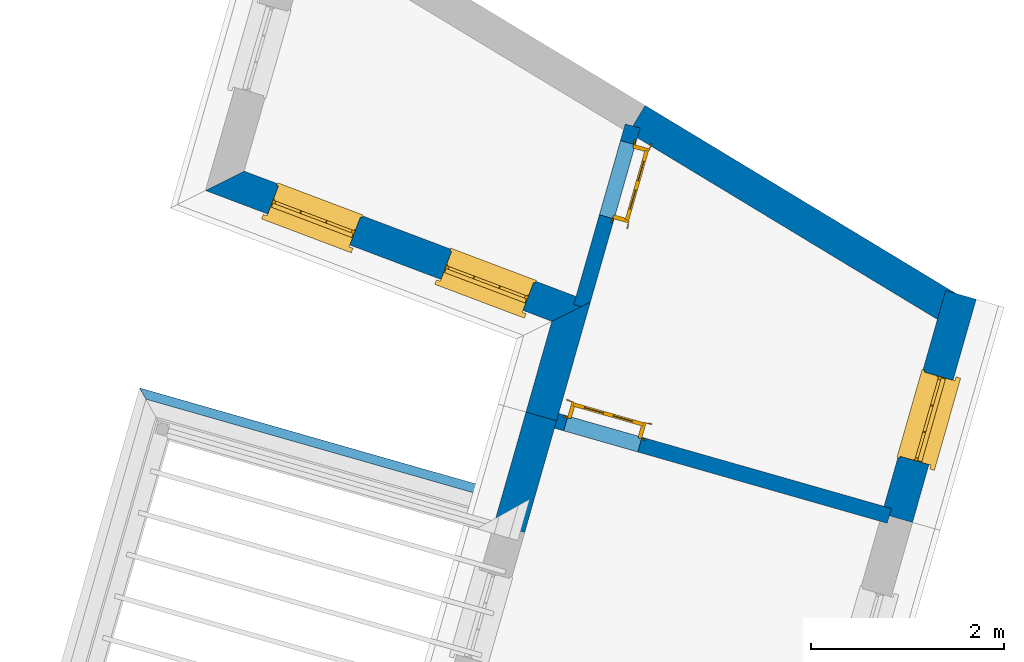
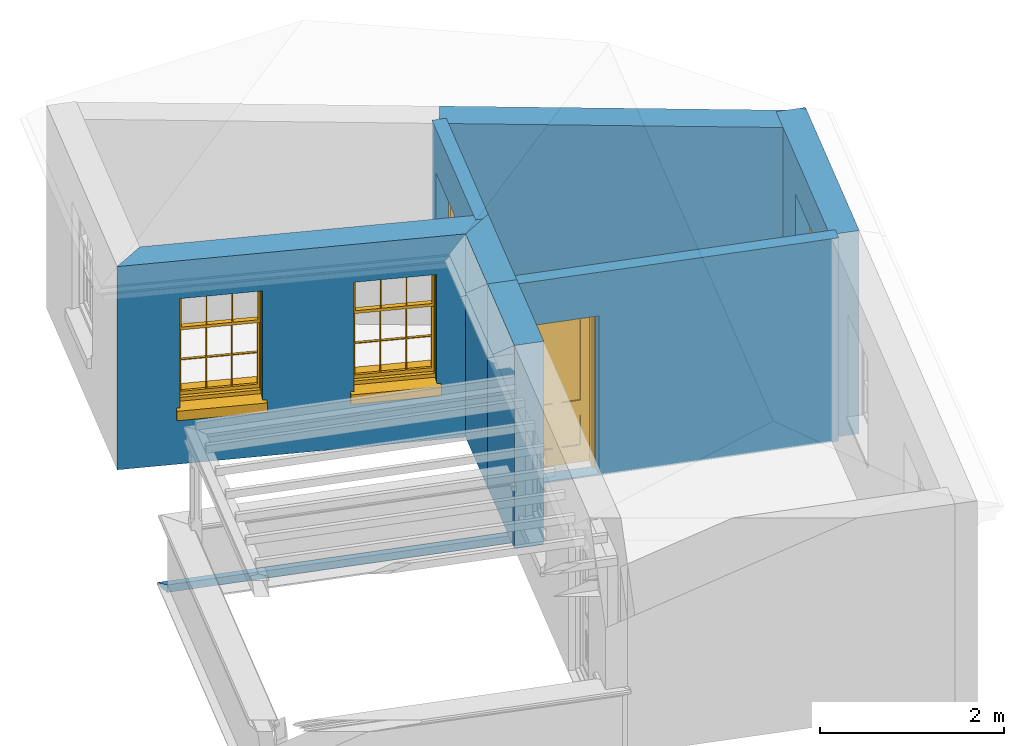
# One storey, part 3 of 5: 8 walls, 3 windows, 2 doors, 5 openings.
"""IFC4 building model written with IfcOpenShell, lengths in metres."""

import ifcopenshell
import ifcopenshell.guid

model = None  # the IFC model being written
_history = None  # IfcOwnerHistory: only IFC2X3 demands one
_inside = {}  # id of a spatial element -> (the spatial element, [elements in it])
_under = {}  # id of a project, library or spatial element -> (it, [spatial elements below it])
_declared = {}  # id of a project -> (the project, [libraries it declares])
_typed = {}  # id of a type object -> (the type object, [elements of that type])
_made_of = {}  # id of a material, layer set ... -> (it, [elements and type objects made of it])


def new_model(schema):
    """Start an empty IFC model of exactly this schema.

    Asked for "IFC4X3", IfcOpenShell would pick the latest addendum, in which some entities
    have other attributes; the version numbers below select the first issue.
    IFC2X3 requires an IfcOwnerHistory on every rooted entity: one is made here for all.
    """
    global model, _history
    if schema == "IFC4X3":
        model = ifcopenshell.file(schema_version=(4, 3, 0, 0))
    else:
        model = ifcopenshell.file(schema=schema)
    _inside.clear()
    _under.clear()
    _declared.clear()
    _typed.clear()
    _made_of.clear()
    _history = None
    if model.schema == "IFC2X3":
        org = make("IfcOrganization", Name="unknown")
        user = make(
            "IfcPersonAndOrganization",
            ThePerson=make("IfcPerson", FamilyName="unknown"),
            TheOrganization=org,
        )
        app = make(
            "IfcApplication",
            ApplicationDeveloper=org,
            Version="unknown",
            ApplicationFullName="unknown",
            ApplicationIdentifier="unknown",
        )
        _history = make(
            "IfcOwnerHistory",
            OwningUser=user,
            OwningApplication=app,
            ChangeAction="ADDED",
            CreationDate=0,
        )
    return model


def make(cls, **values):
    """One entity of the class cls with the attributes given. An attribute that is None is left unset."""
    return model.create_entity(
        cls, **{name: value for name, value in values.items() if value is not None}
    )


def rooted(cls, **values):
    """An entity with a GlobalId (a new one), such as an element, a storey or a relation."""
    return make(cls, GlobalId=ifcopenshell.guid.new(), OwnerHistory=_history, **values)


def si_unit(unit_type, name, prefix=None):
    """IfcSIUnit, for example si_unit("LENGTHUNIT", "METRE", prefix="MILLI")."""
    return make("IfcSIUnit", UnitType=unit_type, Prefix=prefix, Name=name)


def assignment(units):
    """IfcUnitAssignment: the units of a project."""
    return None if units is None else make("IfcUnitAssignment", Units=units)


def point(xyz):
    """IfcCartesianPoint."""
    return None if xyz is None else make("IfcCartesianPoint", Coordinates=xyz)


def direction(xyz):
    """IfcDirection."""
    return None if xyz is None else make("IfcDirection", DirectionRatios=xyz)


def frame(location, z_axis=None, x_axis=None):
    """IfcAxis2Placement3D, a coordinate frame: its origin and axes. An axis left out is left unset."""
    return make(
        "IfcAxis2Placement3D",
        Location=point(location),
        Axis=direction(z_axis),
        RefDirection=direction(x_axis),
    )


def origin():
    """The frame at (0, 0, 0) with its axes left unset."""
    return frame((0.0, 0.0, 0.0))


def origin_with_axes():
    """The frame at (0, 0, 0) with the z axis (0, 0, 1) and the x axis (1, 0, 0) written out."""
    return frame((0.0, 0.0, 0.0), z_axis=(0.0, 0.0, 1.0), x_axis=(1.0, 0.0, 0.0))


def place(relative_to, where):
    """IfcLocalPlacement: puts the frame where relative to a parent placement (None: the world)."""
    return make(
        "IfcLocalPlacement", PlacementRelTo=relative_to, RelativePlacement=where
    )


def context(
    kind, dimensions, precision=None, world=None, true_north=None, identifier=None
):
    """IfcGeometricRepresentationContext, for example the 3D "Model" context."""
    return make(
        "IfcGeometricRepresentationContext",
        ContextIdentifier=identifier,
        ContextType=kind,
        CoordinateSpaceDimension=dimensions,
        Precision=precision,
        WorldCoordinateSystem=world,
        TrueNorth=true_north,
    )


def subcontext(parent, identifier, kind, view, scale=None):
    """IfcGeometricRepresentationSubContext, for example "Body" below "Model"."""
    return make(
        "IfcGeometricRepresentationSubContext",
        ContextIdentifier=identifier,
        ContextType=kind,
        ParentContext=parent,
        TargetScale=scale,
        TargetView=view,
    )


def project(units=None, contexts=None):
    """IfcProject with its units and contexts."""
    return rooted(
        "IfcProject",
        Name="project",
        RepresentationContexts=contexts,
        UnitsInContext=assignment(units),
    )


def spatial(cls, under=None, at=None, **own):
    """A site, building, storey or space (cls), placed at a placement, below another one or the project."""
    s = rooted(cls, ObjectPlacement=at, **own)
    if under is not None:
        _under.setdefault(under.id(), (under, []))[1].append(s)
    return s


def polyline(points):
    """IfcPolyline through the points."""
    return make("IfcPolyline", Points=[point(p) for p in points])


def outline(outer, holes=None, kind="AREA"):
    """IfcArbitraryClosedProfileDef: a profile drawn as a closed curve; with holes, ...WithVoids."""
    if holes is None:
        return make("IfcArbitraryClosedProfileDef", ProfileType=kind, OuterCurve=outer)
    return make(
        "IfcArbitraryProfileDefWithVoids",
        ProfileType=kind,
        OuterCurve=outer,
        InnerCurves=holes,
    )


def extrude(swept, where, along, depth):
    """IfcExtrudedAreaSolid: the profile swept, set in the frame where, extruded along a direction by depth."""
    return make(
        "IfcExtrudedAreaSolid",
        SweptArea=swept,
        Position=where,
        ExtrudedDirection=direction(along),
        Depth=depth,
    )


def clip(a, b, op="DIFFERENCE"):
    """IfcBooleanClippingResult: the solid a cut by the half space b."""
    return make(
        "IfcBooleanClippingResult", Operator=op, FirstOperand=a, SecondOperand=b
    )


def halfspace(plane, agree):
    """IfcHalfSpaceSolid: all space on one side of the plane z = 0 of the frame plane."""
    return make(
        "IfcHalfSpaceSolid",
        BaseSurface=make("IfcPlane", Position=plane),
        AgreementFlag=agree,
    )


def faces_of(points, faces, orient=None, outer=None):
    """IfcFace entities. A face is a list of loops; a loop is a list of indices into points, from 0.

    orient and outer hold one flag for each loop. By default every Orientation is true, the
    first loop of a face is its IfcFaceOuterBound and the others are IfcFaceBound.
    """
    made = []
    for i, loops in enumerate(faces):
        bounds = []
        for j, loop in enumerate(loops):
            is_outer = j == 0 if outer is None else outer[i][j]
            bounds.append(
                make(
                    "IfcFaceOuterBound" if is_outer else "IfcFaceBound",
                    Bound=make("IfcPolyLoop", Polygon=[points[k] for k in loop]),
                    Orientation=True if orient is None else orient[i][j],
                )
            )
        made.append(make("IfcFace", Bounds=bounds))
    return made


def faceted_brep(points, faces, orient=None, outer=None, voids=None):
    """IfcFacetedBrep: a solid bounded by flat faces; with voids (closed shells), ...WithVoids."""
    shared = [point(p) for p in points]
    hull = make("IfcClosedShell", CfsFaces=faces_of(shared, faces, orient, outer))
    if voids is None:
        return make("IfcFacetedBrep", Outer=hull)
    return make(
        "IfcFacetedBrepWithVoids",
        Outer=hull,
        Voids=[
            make(cls, CfsFaces=faces_of(shared, fs, o, b)) for cls, fs, o, b in voids
        ],
    )


def shape(context_of_items, identifier, shape_type, items):
    """IfcShapeRepresentation: the items that make up one representation, for example the "Body"."""
    return make(
        "IfcShapeRepresentation",
        ContextOfItems=context_of_items,
        RepresentationIdentifier=identifier,
        RepresentationType=shape_type,
        Items=items,
    )


def source(mapping_origin, context_of_items, identifier, shape_type, items):
    """IfcRepresentationMap: a shape defined once, which mapped items show again and again."""
    return make(
        "IfcRepresentationMap",
        MappingOrigin=mapping_origin,
        MappedRepresentation=shape(context_of_items, identifier, shape_type, items),
    )


def transform(
    local_origin,
    x_axis=None,
    y_axis=None,
    z_axis=None,
    scale=None,
    scale2=None,
    scale3=None,
    uniform=True,
):
    """IfcCartesianTransformationOperator3D, or its non-uniform kind. x_axis, y_axis, z_axis: its Axis1, 2, 3."""
    if uniform:
        return make(
            "IfcCartesianTransformationOperator3D",
            Axis1=direction(x_axis),
            Axis2=direction(y_axis),
            LocalOrigin=point(local_origin),
            Scale=scale,
            Axis3=direction(z_axis),
        )
    return make(
        "IfcCartesianTransformationOperator3DnonUniform",
        Axis1=direction(x_axis),
        Axis2=direction(y_axis),
        LocalOrigin=point(local_origin),
        Scale=scale,
        Axis3=direction(z_axis),
        Scale2=scale2,
        Scale3=scale3,
    )


def mapped(mapping_source, mapping_target):
    """IfcMappedItem: shows the shape of a source again, moved by a transform."""
    return make(
        "IfcMappedItem", MappingSource=mapping_source, MappingTarget=mapping_target
    )


def material(Name=None, Category=None):
    """IfcMaterial."""
    return make("IfcMaterial", Name=Name, Category=Category)


def layer(
    of_material, thickness, ventilated=None, Name=None, Category=None, Priority=None
):
    """IfcMaterialLayer: one layer of a wall or slab, of a material (None: an air gap)."""
    return make(
        "IfcMaterialLayer",
        Material=of_material,
        LayerThickness=thickness,
        IsVentilated=ventilated,
        Name=Name,
        Category=Category,
        Priority=Priority,
    )


def layer_set(layers, Name=None):
    """IfcMaterialLayerSet."""
    return make("IfcMaterialLayerSet", MaterialLayers=layers, LayerSetName=Name)


def layer_usage(for_layer_set, set_direction, sense, offset, extent=None):
    """IfcMaterialLayerSetUsage: how a layer set lies in its element."""
    return make(
        "IfcMaterialLayerSetUsage",
        ForLayerSet=for_layer_set,
        LayerSetDirection=set_direction,
        DirectionSense=sense,
        OffsetFromReferenceLine=offset,
        ReferenceExtent=extent,
    )


def material_profile(
    of_material, cross_section, Name=None, Category=None, Priority=None
):
    """IfcMaterialProfile: a cross section and its material."""
    return make(
        "IfcMaterialProfile",
        Name=Name,
        Material=of_material,
        Profile=cross_section,
        Priority=Priority,
        Category=Category,
    )


def profile_set(profiles, Name=None, composite=None):
    """IfcMaterialProfileSet."""
    return make(
        "IfcMaterialProfileSet",
        Name=Name,
        MaterialProfiles=profiles,
        CompositeProfile=composite,
    )


def profile_usage(for_profile_set, cardinal=None, extent=None):
    """IfcMaterialProfileSetUsage: how a profile set lies along its element."""
    return make(
        "IfcMaterialProfileSetUsage",
        ForProfileSet=for_profile_set,
        CardinalPoint=cardinal,
        ReferenceExtent=extent,
    )


def made_of(thing, what):
    """Note that an element or type object is made of a material, layer set ...; save() writes the relation."""
    if what is not None:
        _made_of.setdefault(what.id(), (what, []))[1].append(thing)
    return thing


def type_object(cls, material=None, **own):
    """A type object (cls), such as IfcWallType, which elements share."""
    return made_of(rooted(cls, **own), material)


def type_shapes(of_type, sources):
    """Give a type object the sources (RepresentationMaps) that its elements show as mapped items."""
    of_type.RepresentationMaps = sources


def element(
    cls,
    number,
    at=None,
    inside=None,
    cuts=None,
    type_object=None,
    material=None,
    context=None,
    identifier="Body",
    shape_type=None,
    held_by="IfcProductDefinitionShape",
    body=None,
    shapes=None,
    **own,
):
    """One element of the class cls, such as IfcWall. Its Tag is "e" and its number.

    at: its placement. inside: the storey or other place that contains it. cuts: it is an
    opening in that element (IfcRelVoidsElement). A single representation is given by context,
    identifier, shape_type and body (its items); several are given by shapes. held_by: the class
    of the entity that holds the representations. save() writes the other relations.
    """
    e = rooted(cls, Tag="e%d" % number, ObjectPlacement=at, **own)
    if body is not None:
        shapes = [shape(context, identifier, shape_type, body)]
    if shapes is not None:
        e.Representation = make(held_by, Representations=shapes)
    if inside is not None:
        _inside.setdefault(inside.id(), (inside, []))[1].append(e)
    if cuts is not None:
        rooted(
            "IfcRelVoidsElement", RelatingBuildingElement=cuts, RelatedOpeningElement=e
        )
    if type_object is not None:
        _typed.setdefault(type_object.id(), (type_object, []))[1].append(e)
    return made_of(e, material)


def fill(opening, filler):
    """IfcRelFillsElement: the door or window that sits in an opening."""
    return rooted(
        "IfcRelFillsElement",
        RelatingOpeningElement=opening,
        RelatedBuildingElement=filler,
    )


def aggregate(whole, parts):
    """IfcRelAggregates: a whole, such as a stair, and the parts it consists of."""
    return rooted("IfcRelAggregates", RelatingObject=whole, RelatedObjects=parts)


def save(model, path):
    """Write the relations noted so far, then the file.

    IfcRelAggregates (storeys below a building ...), IfcRelContainedInSpatialStructure (elements
    in a storey), IfcRelDefinesByType, IfcRelAssociatesMaterial and IfcRelDeclares: one each for
    every whole, place, type object, material and project.
    """
    for whole, parts in _under.values():
        aggregate(whole, parts)
    for where, things in _inside.values():
        rooted(
            "IfcRelContainedInSpatialStructure",
            RelatedElements=things,
            RelatingStructure=where,
        )
    for kind, things in _typed.values():
        rooted("IfcRelDefinesByType", RelatedObjects=things, RelatingType=kind)
    for what, things in _made_of.values():
        rooted("IfcRelAssociatesMaterial", RelatedObjects=things, RelatingMaterial=what)
    for by, libraries in _declared.values():
        rooted("IfcRelDeclares", RelatingContext=by, RelatedDefinitions=libraries)
    model.write(path)


model = new_model("IFC4")

# Units and contexts
model_context = context("Model", 3, world=origin_with_axes())
body_context = subcontext(model_context, "Body", "Model", "MODEL_VIEW")
ifc_project = project(units=[si_unit("PLANEANGLEUNIT", "RADIAN"), si_unit("MASSUNIT", "GRAM", prefix="KILO"), si_unit("FORCEUNIT", "NEWTON", prefix="KILO"), si_unit("LENGTHUNIT", "METRE"), si_unit("AREAUNIT", "SQUARE_METRE"), si_unit("VOLUMEUNIT", "CUBIC_METRE")], contexts=[model_context, model_context])

# Sites, building, storey
site_1_placement = place(None, origin_with_axes())
site_1 = spatial("IfcSite", under=ifc_project, at=site_1_placement, Name="Tamar")
site_2_placement = place(site_1_placement, origin_with_axes())
site_2 = spatial("IfcSite", under=site_1, at=site_2_placement, Name="Site plot-19", CompositionType="ELEMENT")
building_placement = place(None, origin_with_axes())
building = spatial("IfcBuilding", under=site_2, at=building_placement, Name="Building plot-19", CompositionType="ELEMENT")
storey_placement = place(None, frame((0.0, 0.0, 30.4), z_axis=(0.0, 0.0, 1.0), x_axis=(1.0, 0.0, 0.0)))
storey = spatial("IfcBuildingStorey", under=building, at=storey_placement, Name="plot-19 1", CompositionType="ELEMENT", Elevation=30.4)

# Wall, openings, windows
ifc_material_1 = material(Name="Masonry")
ifc_layer_1 = layer(ifc_material_1, 0.33, ventilated=False)
ifc_layer_set_1 = layer_set([ifc_layer_1], Name="exterior_0.08_0.25")
ifc_layer_usage_1 = layer_usage(ifc_layer_set_1, "AXIS2", "POSITIVE", -0.25)
wall_type_1 = type_object("IfcWallType", Name="exterior_0.08_0.25", PredefinedType="SOLIDWALL", material=ifc_layer_set_1)
wall_1_placement = place(storey_placement, frame((277.125139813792, 301.7223765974, 0.0), z_axis=(0.0, 0.0, 1.0), x_axis=(0.935518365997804, -0.353278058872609, 0.0)))
wall_1 = element("IfcWall", 1, at=wall_1_placement, inside=storey, type_object=wall_type_1, material=ifc_layer_usage_1, Name="exterior", context=body_context, shape_type="SweptSolid", body=[
    extrude(outline(polyline([(0.0736260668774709, 0.0800000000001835), (-0.230081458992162, -0.249999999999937), (3.61187362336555, -0.249999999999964), (3.91558114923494, 0.0800000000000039), (0.0736260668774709, 0.0800000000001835)])), origin_with_axes(), (0.0, 0.0, 1.0), 2.7),
])
opening_1_placement = place(wall_1_placement, frame((0.460977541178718, 0.0, 0.75)))
opening_1 = element("IfcOpeningElement", 2, at=opening_1_placement, cuts=wall_1, Name="My Opening", ObjectType="Opening", context=body_context, shape_type="SweptSolid", body=[
    extrude(outline(polyline([(0.0, -0.269999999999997), (0.91000000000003, -0.269999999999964), (0.910000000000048, 1.09999999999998), (1.83186799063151e-14, 1.09999999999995), (0.0, -0.269999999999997)])), origin_with_axes(), (0.0, 0.0, 1.0), 1.445),
])
opening_2_placement = place(wall_1_placement, frame((2.38195508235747, 0.0, 0.75)))
opening_2 = element("IfcOpeningElement", 3, at=opening_2_placement, cuts=wall_1, Name="My Opening", ObjectType="Opening", context=body_context, shape_type="SweptSolid", body=[
    extrude(outline(polyline([(0.0, -0.26999999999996), (0.909999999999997, -0.270000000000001), (0.910000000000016, 1.09999999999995), (1.86517468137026e-14, 1.09999999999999), (0.0, -0.26999999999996)])), origin_with_axes(), (0.0, 0.0, 1.0), 1.445),
])
window_type = type_object("IfcWindowType", Name="sash_shorter", PartitioningType="DOUBLE_PANEL_HORIZONTAL", PredefinedType="NOTDEFINED")
shared_shape_1 = source(origin(), body_context, "Body", "Brep", [
    faceted_brep([(0.876875, 0.145, 0.999097), (0.876875, 0.145, 1.411875), (0.9, 0.145, 1.435), (0.033125, 0.145, 1.411875), (0.033125, 0.145, 0.999097), (0.01, 0.145, 1.435), (0.033125, 0.115, 1.411875), (0.01, 0.115, 1.435), (0.033125, 0.115, 0.999097), (0.876875, 0.115, 1.411875), (0.876875, 0.115, 0.999097), (0.9, 0.115, 1.435), (0.033125, 0.145, 0.960972), (0.01, 0.145, 0.960972), (0.033125, 0.145, 0.548195), (0.876875, 0.145, 0.960972), (0.876875, 0.145, 0.548195), (0.9, 0.145, 0.960972), (0.876875, 0.145, 0.538195), (0.876875, 0.145, 0.125417), (0.9, 0.145, 0.077167), (0.033125, 0.145, 0.125417), (0.033125, 0.145, 0.538195), (0.01, 0.145, 0.077167), (0.9, 0.115, 0.960972), (0.01, 0.115, 0.960972), (-0.0425, 0.0, 0.01), (-0.0425, -0.05, 0.001667), (0.0, 0.0, 0.01), (0.9525, 0.0, 0.01), (0.91, 0.0, 0.01), (0.9525, -0.05, 0.001667), (-0.02, 0.33, 0.077167), (0.0, 0.33, 0.077167), (-0.02, 0.36, 0.077167), (0.0, 0.19, 0.077167), (0.01, 0.19, 0.077167), (0.91, 0.19, 0.077167), (0.91, 0.33, 0.077167), (0.9, 0.19, 0.077167), (0.93, 0.33, 0.077167), (0.93, 0.36, 0.077167), (0.01, 0.145, 0.999097), (0.01, 0.175, 0.999097), (0.9, 0.145, 0.999097), (0.9, 0.175, 0.999097), (0.876875, 0.175, 0.125417), (0.876875, 0.175, 0.538195), (0.9, 0.175, 0.077167), (0.876875, 0.175, 0.548195), (0.876875, 0.175, 0.960972), (0.033125, 0.175, 0.125417), (0.01, 0.175, 0.077167), (0.033125, 0.175, 0.538195), (0.033125, 0.175, 0.960972), (0.033125, 0.175, 0.548195), (-0.02, 0.33, 0.052167), (-0.02, 0.36, 0.052167), (0.93, 0.36, 0.052167), (0.93, 0.33, 0.052167), (0.91, 0.33, 0.052167), (0.0, 0.33, 0.052167), (0.91, 0.1, 0.026667), (0.0, 0.1, 0.026667), (-0.0425, -0.05, -0.123333), (0.9525, -0.05, -0.123333), (-0.0425, 0.0, -0.123333), (0.9525, 0.0, -0.123333), (0.01, 0.19, 1.435), (0.9, 0.19, 1.435), (0.0, 0.19, 1.445), (0.91, 0.19, 1.445), (0.01, 0.1, 0.077167), (0.9, 0.1, 0.077167), (0.592292, 0.145, 0.125417), (0.592292, 0.175, 0.125417), (0.317708, 0.175, 0.125417), (0.317708, 0.145, 0.125417), (0.592292, 0.145, 0.548195), (0.317708, 0.145, 0.548195), (0.317708, 0.145, 0.538195), (0.592292, 0.145, 0.538195), (0.592292, 0.175, 0.548195), (0.317708, 0.175, 0.548195), (0.602292, 0.175, 0.548195), (0.602292, 0.145, 0.548195), (0.317708, 0.175, 0.538195), (0.307708, 0.175, 0.125417), (0.307708, 0.175, 0.538195), (0.602292, 0.175, 0.538195), (0.602292, 0.175, 0.125417), (0.592292, 0.175, 0.538195), (0.307708, 0.175, 0.548195), (0.317708, 0.175, 0.960972), (0.307708, 0.175, 0.960972), (0.602292, 0.175, 0.960972), (0.592292, 0.175, 0.960972), (0.307708, 0.145, 0.538195), (0.307708, 0.145, 0.125417), (0.307708, 0.145, 0.548195), (0.307708, 0.145, 0.960972), (0.592292, 0.145, 0.960972), (0.317708, 0.145, 0.960972), (0.602292, 0.145, 0.960972), (0.602292, 0.145, 0.538195), (0.602292, 0.145, 0.125417), (0.317708, 0.115, 1.411875), (0.307708, 0.115, 1.411875), (0.307708, 0.115, 0.999097), (0.317708, 0.115, 0.999097), (0.602292, 0.115, 1.411875), (0.592292, 0.115, 1.411875), (0.592292, 0.115, 0.999097), (0.602292, 0.115, 0.999097), (0.317708, 0.145, 0.999097), (0.307708, 0.145, 0.999097), (0.307708, 0.145, 1.411875), (0.317708, 0.145, 1.411875), (0.602292, 0.145, 0.999097), (0.592292, 0.145, 0.999097), (0.592292, 0.145, 1.411875), (0.602292, 0.145, 1.411875), (0.91, 0.1, 1.445), (0.9, 0.1, 1.435), (0.01, 0.1, 1.435), (0.0, 0.1, 1.445), (0.91, 0.0, 0.0), (0.0, 0.0, 0.0), (0.91, 0.33, 0.0), (0.0, 0.33, 0.0)], [[[0, 1, 2]], [[3, 4, 5]], [[6, 7, 8]], [[9, 10, 11]], [[12, 13, 14]], [[15, 16, 17]], [[18, 19, 20]], [[21, 22, 23]], [[24, 15, 17]], [[13, 12, 25]], [[26, 27, 28]], [[29, 30, 31]], [[32, 33, 34]], [[35, 36, 33]], [[37, 38, 39]], [[40, 41, 38]], [[42, 4, 43]], [[44, 45, 0]], [[46, 47, 48]], [[49, 50, 45]], [[51, 52, 53]], [[54, 55, 43]], [[38, 33, 36, 39]], [[41, 34, 33, 38]], [[56, 32, 34, 57]], [[57, 34, 41, 58]], [[58, 41, 40, 59]], [[57, 58, 60, 61]], [[52, 48, 39, 36]], [[62, 63, 28, 30]], [[27, 31, 30, 28]], [[27, 64, 65, 31]], [[66, 67, 65, 64]], [[2, 5, 68, 69]], [[68, 70, 71, 69]], [[20, 23, 72, 73]], [[73, 72, 63, 62]], [[74, 75, 76, 77]], [[78, 79, 80, 81]], [[78, 82, 83, 79]], [[16, 49, 84, 85]], [[86, 76, 87, 88]], [[89, 90, 75, 91]], [[92, 88, 53, 55]], [[82, 91, 86, 83]], [[93, 83, 92, 94]], [[95, 84, 82, 96]], [[89, 84, 49, 47]], [[97, 88, 87, 98]], [[22, 53, 88, 97]], [[81, 91, 75, 74]], [[80, 86, 91, 81]], [[77, 76, 86, 80]], [[99, 92, 55, 14]], [[100, 94, 92, 99]], [[101, 96, 82, 78]], [[79, 83, 93, 102]], [[85, 84, 95, 103]], [[104, 89, 47, 18]], [[105, 90, 89, 104]], [[104, 18, 16, 85]], [[80, 97, 98, 77]], [[104, 81, 74, 105]], [[103, 101, 78, 85]], [[99, 14, 22, 97]], [[102, 100, 99, 79]], [[106, 107, 108, 109]], [[110, 111, 112, 113]], [[114, 115, 116, 117]], [[118, 119, 120, 121]], [[107, 116, 115, 108]], [[111, 120, 119, 112]], [[109, 114, 117, 106]], [[113, 118, 121, 110]], [[85, 78, 81, 104]], [[84, 89, 91, 82]], [[83, 86, 88, 92]], [[79, 99, 97, 80]], [[109, 112, 119, 114]], [[102, 93, 96, 101]], [[106, 117, 120, 111]], [[98, 87, 51, 21]], [[6, 3, 116, 107]], [[110, 121, 1, 9]], [[19, 46, 90, 105]], [[26, 66, 64, 27]], [[29, 31, 65, 67]], [[25, 24, 112, 109]], [[11, 7, 106, 111]], [[75, 48, 52, 76]], [[43, 45, 96, 93]], [[45, 43, 114, 119]], [[5, 2, 120, 117]], [[24, 25, 102, 101]], [[42, 5, 4]], [[2, 44, 0]], [[49, 45, 48, 47]], [[52, 43, 55, 53]], [[14, 13, 23, 22]], [[20, 17, 16, 18]], [[24, 11, 10]], [[25, 8, 7]], [[8, 4, 3, 6]], [[9, 1, 0, 10]], [[15, 50, 49, 16]], [[18, 47, 46, 19]], [[21, 51, 53, 22]], [[14, 55, 54, 12]], [[44, 2, 69, 45]], [[68, 5, 42, 43]], [[36, 35, 70, 68]], [[39, 69, 71, 37]], [[62, 122, 123, 73]], [[63, 72, 124, 125]], [[8, 108, 115, 4]], [[113, 10, 0, 118]], [[94, 100, 12, 54]], [[17, 20, 73, 24]], [[72, 23, 13, 25]], [[52, 36, 68, 43]], [[69, 39, 48, 45]], [[11, 24, 73, 123]], [[7, 124, 72, 25]], [[23, 77, 98]], [[98, 21, 23]], [[105, 74, 20]], [[20, 19, 105]], [[20, 74, 77, 23]], [[113, 112, 24]], [[24, 10, 113]], [[25, 109, 108]], [[108, 8, 25]], [[110, 9, 11]], [[11, 111, 110]], [[7, 6, 107]], [[107, 106, 7]], [[5, 117, 116]], [[116, 3, 5]], [[121, 120, 2]], [[2, 1, 121]], [[11, 123, 124, 7]], [[122, 125, 124, 123]], [[43, 93, 94]], [[94, 54, 43]], [[96, 45, 95]], [[50, 95, 45]], [[15, 103, 95, 50]], [[48, 75, 90]], [[90, 46, 48]], [[87, 76, 52]], [[52, 51, 87]], [[103, 15, 24]], [[24, 101, 103]], [[100, 102, 25]], [[25, 12, 100]], [[115, 114, 43]], [[43, 4, 115]], [[118, 0, 45]], [[45, 119, 118]], [[71, 70, 125, 122]], [[70, 35, 63, 125]], [[122, 62, 37, 71]], [[126, 67, 66, 127]], [[60, 58, 59]], [[38, 60, 59, 40]], [[61, 56, 57]], [[32, 56, 61, 33]], [[61, 60, 128, 129]], [[62, 60, 38, 37]], [[126, 128, 60, 62]], [[33, 61, 63, 35]], [[61, 129, 127, 63]], [[128, 126, 127, 129]], [[28, 127, 66, 26]], [[63, 127, 28]], [[29, 67, 126, 30]], [[30, 126, 62]]]),
])
type_shapes(window_type, [shared_shape_1])
window_1_placement = place(storey_placement, frame((277.461007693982, 301.306933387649, 0.75), z_axis=(0.0, 0.0, 1.0), x_axis=(0.851321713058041, -0.321483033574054, 0.0)))
window_1 = element("IfcWindow", 4, at=window_1_placement, inside=storey, type_object=window_type, Name="bedroom outside window", OverallHeight=1.445, OverallWidth=0.91, context=body_context, shape_type="MappedRepresentation", body=[
    mapped(shared_shape_1, transform((0.0, 0.0, 0.0), scale=1.0)),
])
fill(opening_1, window_1)
window_2_placement = place(storey_placement, frame((279.258117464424, 300.628294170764, 0.75), z_axis=(0.0, 0.0, 1.0), x_axis=(0.851321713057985, -0.321483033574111, 0.0)))
window_2 = element("IfcWindow", 5, at=window_2_placement, inside=storey, type_object=window_type, Name="bedroom outside window", OverallHeight=1.445, OverallWidth=0.91, context=body_context, shape_type="MappedRepresentation", body=[
    mapped(shared_shape_1, transform((0.0, 0.0, 0.0), scale=1.0)),
])
fill(opening_2, window_2)

# Walls
wall_2_placement = place(storey_placement, frame((280.719359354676, 300.365098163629, 0.0), z_axis=(0.0, 0.0, 1.0), x_axis=(-0.274568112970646, -0.961567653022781, 0.0)))
element("IfcWall", 6, at=wall_2_placement, inside=storey, type_object=wall_type_1, material=ifc_layer_usage_1, Name="exterior", context=body_context, shape_type="SweptSolid", body=[
    extrude(outline(polyline([(-0.0736260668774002, 0.0800000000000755), (0.230081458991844, -0.250000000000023), (1.20934681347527, -0.249999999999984), (1.2093468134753, 0.080000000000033), (-0.0736260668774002, 0.0800000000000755)])), origin_with_axes(), (0.0, 0.0, 1.0), 2.7),
])
wall_3_placement = place(storey_placement, frame((280.387311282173, 299.202229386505, 0.0), z_axis=(0.0, 0.0, 1.0), x_axis=(-0.274568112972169, -0.961567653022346, 0.0)))
element("IfcWall", 7, at=wall_3_placement, inside=storey, type_object=wall_type_1, material=ifc_layer_usage_1, Name="exterior", context=body_context, shape_type="SweptSolid", body=[
    extrude(outline(polyline([(-1.07022431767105e-13, 0.080000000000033), (3.8903745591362e-13, -0.249999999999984), (1.20453521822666, -0.249999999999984), (1.2045352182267, 0.0800000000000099), (-1.07022431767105e-13, 0.080000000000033)])), origin_with_axes(), (0.0, 0.0, 1.0), 2.7),
])

# Wall, opening, window
wall_4_placement = place(storey_placement, frame((283.917465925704, 298.194221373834, 0.0), z_axis=(0.0, 0.0, 1.0), x_axis=(0.274568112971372, 0.961567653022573, 0.0)))
wall_4 = element("IfcWall", 8, at=wall_4_placement, inside=storey, type_object=wall_type_1, material=ifc_layer_usage_1, Name="exterior", context=body_context, shape_type="SweptSolid", body=[
    extrude(outline(polyline([(2.95812399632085e-14, 0.079999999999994), (-5.24427298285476e-14, -0.249999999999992), (2.40808513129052, -0.249999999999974), (2.40808513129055, 0.079999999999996), (2.95812399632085e-14, 0.079999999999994)])), origin_with_axes(), (0.0, 0.0, 1.0), 2.7),
])
opening_3_placement = place(wall_4_placement, frame((0.624042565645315, 0.0, 0.75)))
opening_3 = element("IfcOpeningElement", 9, at=opening_3_placement, cuts=wall_4, Name="My Opening", ObjectType="Opening", context=body_context, shape_type="SweptSolid", body=[
    extrude(outline(polyline([(0.0, -0.270000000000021), (0.909999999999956, -0.270000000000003), (0.909999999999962, 1.10000000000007), (6.21724893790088e-15, 1.10000000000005), (0.0, -0.270000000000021)])), origin_with_axes(), (0.0, 0.0, 1.0), 1.445),
])
window_3_placement = place(storey_placement, frame((284.348431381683, 298.720147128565, 0.75), z_axis=(0.0, 0.0, 1.0), x_axis=(0.249856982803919, 0.875026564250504, 0.0)))
window_3 = element("IfcWindow", 10, at=window_3_placement, inside=storey, type_object=window_type, Name="circulation outside window", OverallHeight=1.445, OverallWidth=0.91, context=body_context, shape_type="MappedRepresentation", body=[
    mapped(shared_shape_1, transform((0.0, 0.0, 0.0), scale=1.0)),
])
fill(opening_3, window_3)

# Wall
ifc_material_2 = material(Name="Masonry")
ifc_layer_2 = layer(ifc_material_2, 0.33, ventilated=False)
ifc_layer_set_2 = layer_set([ifc_layer_2], Name="party_0.08_0.25")
ifc_layer_usage_2 = layer_usage(ifc_layer_set_2, "AXIS2", "POSITIVE", -0.25)
wall_type_2 = type_object("IfcWallType", Name="party_0.08_0.25", PredefinedType="SOLIDWALL", material=ifc_layer_set_2)
wall_5_placement = place(storey_placement, frame((284.510007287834, 300.269366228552, 0.0), z_axis=(0.0, 0.0, 1.0), x_axis=(-0.85556747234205, 0.517691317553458, 0.0)))
element("IfcWall", 11, at=wall_5_placement, inside=storey, type_object=wall_type_2, material=ifc_layer_usage_2, Name="party", context=body_context, shape_type="SweptSolid", body=[
    extrude(outline(polyline([(-5.8215518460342e-15, 0.0799999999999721), (-9.58812107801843e-15, -0.250000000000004), (3.80508354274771, -0.250000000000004), (3.80508354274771, 0.0799999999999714), (-5.8215518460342e-15, 0.0799999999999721)])), origin_with_axes(), (0.0, 0.0, 1.0), 2.7),
])

# Wall, opening, door
ifc_material_3 = material(Name="Masonry")
ifc_layer_3 = layer(ifc_material_3, 0.16, ventilated=False)
ifc_layer_set_3 = layer_set([ifc_layer_3], Name="interior_0.08_0.08")
ifc_layer_usage_3 = layer_usage(ifc_layer_set_3, "AXIS2", "POSITIVE", -0.08)
wall_type_3 = type_object("IfcWallType", Name="interior_0.08_0.08", PredefinedType="SOLIDWALL", material=ifc_layer_set_3)
wall_6_placement = place(storey_placement, frame((280.387311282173, 299.202229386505, 0.0), z_axis=(0.0, 0.0, 1.0), x_axis=(0.961567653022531, -0.274568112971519, 0.0)))
wall_6 = element("IfcWall", 12, at=wall_6_placement, inside=storey, type_object=wall_type_3, material=ifc_layer_usage_3, Name="interior", context=body_context, shape_type="SweptSolid", body=[
    extrude(outline(polyline([(1.73954320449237e-14, 0.079999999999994), (-1.73519385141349e-14, -0.079999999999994), (3.6712493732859, -0.0799999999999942), (3.67124937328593, 0.0799999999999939), (1.73954320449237e-14, 0.079999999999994)])), origin_with_axes(), (0.0, 0.0, 1.0), 2.7),
])
opening_4_placement = place(wall_6_placement, frame((0.180000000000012, 0.0, 0.0199999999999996)))
opening_4 = element("IfcOpeningElement", 13, at=opening_4_placement, cuts=wall_6, Name="My Opening", ObjectType="Opening", context=body_context, shape_type="SweptSolid", body=[
    extrude(outline(polyline([(0.0, -0.0999999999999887), (0.800000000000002, -0.0999999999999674), (0.800000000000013, 1.09999999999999), (1.11022302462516e-14, 1.09999999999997), (0.0, -0.0999999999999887)])), origin_with_axes(), (0.0, 0.0, 1.0), 2.1),
])
door_type = type_object("IfcDoorType", Name="door_inside", OperationType="SINGLE_SWING_LEFT", PredefinedType="NOTDEFINED")
shared_shape_2 = source(origin(), body_context, "Body", "Brep", [
    faceted_brep([(0.773, 0.33, 1.895), (0.66, 0.33, 1.895), (0.66, 0.33, 2.073), (0.773, 0.33, 2.073), (0.773, 0.33, 0.82), (0.66, 0.33, 0.82), (0.45, 0.33, 1.895), (0.45, 0.33, 2.073), (0.773, 0.33, 0.62), (0.66, 0.33, 0.62), (0.66, 0.315, 0.82), (0.66, 0.315, 1.895), (0.45, 0.315, 1.895), (0.35, 0.33, 1.895), (0.35, 0.33, 2.073), (0.773, 0.33, 0.225), (0.66, 0.33, 0.225), (0.45, 0.33, 0.62), (0.45, 0.33, 0.82), (0.45, 0.315, 0.82), (0.35, 0.33, 0.82), (0.14, 0.33, 2.073), (0.14, 0.33, 1.895), (0.773, 0.33, 0.0), (0.66, 0.33, 0.0), (0.66, 0.315, 0.225), (0.66, 0.315, 0.62), (0.45, 0.315, 0.62), (0.35, 0.33, 0.62), (0.35, 0.315, 0.82), (0.35, 0.315, 1.895), (0.14, 0.315, 1.895), (0.027, 0.33, 2.073), (0.027, 0.33, 1.895), (0.773, 0.292, 0.0), (0.66, 0.292, 0.0), (0.45, 0.33, 0.0), (0.45, 0.33, 0.225), (0.45, 0.315, 0.225), (0.35, 0.33, 0.225), (0.14, 0.33, 0.82), (0.14, 0.33, 0.62), (0.14, 0.315, 0.82), (0.027, 0.33, 0.82), (0.773, 0.292, 0.225), (0.66, 0.292, 0.225), (0.45, 0.292, 0.0), (0.35, 0.33, 0.0), (0.35, 0.315, 0.225), (0.35, 0.315, 0.62), (0.14, 0.315, 0.62), (0.027, 0.33, 0.62), (0.773, 0.292, 0.62), (0.66, 0.292, 0.62), (0.45, 0.292, 0.225), (0.35, 0.292, 0.0), (0.14, 0.33, 0.225), (0.14, 0.33, 0.0), (0.14, 0.315, 0.225), (0.027, 0.33, 0.225), (0.773, 0.292, 0.82), (0.66, 0.292, 0.82), (0.66, 0.307, 0.62), (0.66, 0.307, 0.225), (0.45, 0.307, 0.225), (0.35, 0.292, 0.225), (0.14, 0.292, 0.0), (0.027, 0.33, 0.0), (0.773, 0.292, 1.895), (0.66, 0.292, 1.895), (0.45, 0.292, 0.62), (0.45, 0.292, 0.82), (0.45, 0.307, 0.62), (0.35, 0.292, 0.62), (0.14, 0.292, 0.225), (0.027, 0.292, 0.0), (0.773, 0.292, 2.073), (0.66, 0.292, 2.073), (0.66, 0.307, 1.895), (0.66, 0.307, 0.82), (0.45, 0.307, 0.82), (0.35, 0.292, 0.82), (0.35, 0.307, 0.62), (0.35, 0.307, 0.225), (0.14, 0.307, 0.225), (0.027, 0.292, 0.225), (0.45, 0.292, 1.895), (0.45, 0.292, 2.073), (0.45, 0.307, 1.895), (0.35, 0.292, 1.895), (0.14, 0.292, 0.82), (0.14, 0.292, 0.62), (0.14, 0.307, 0.62), (0.027, 0.292, 0.62), (0.35, 0.292, 2.073), (0.35, 0.307, 1.895), (0.35, 0.307, 0.82), (0.14, 0.307, 0.82), (0.027, 0.292, 0.82), (0.14, 0.292, 2.073), (0.14, 0.292, 1.895), (0.14, 0.307, 1.895), (0.027, 0.292, 1.895), (0.027, 0.292, 2.073), (0.02, 0.335, 0.0), (0.005, 0.34, 0.0), (0.005, 0.34, 2.095), (0.02, 0.335, 2.08), (0.02, 0.33, 0.0), (0.0, 0.335, 0.0), (0.0, 0.335, 2.1), (0.795, 0.34, 2.095), (0.78, 0.335, 2.08), (0.02, 0.33, 2.08), (0.0, 0.33, 0.0), (-0.032, 0.345, 0.0), (-0.032, 0.345, 2.132), (0.8, 0.335, 2.1), (0.795, 0.34, 0.0), (0.78, 0.335, 0.0), (0.78, 0.33, 2.08), (0.04, 0.29, 0.0), (0.025, 0.29, 0.0), (0.025, 0.29, 2.075), (0.04, 0.29, 2.06), (-0.04, 0.34, 0.0), (-0.04, 0.34, 2.14), (0.832, 0.345, 2.132), (0.8, 0.335, 0.0), (0.78, 0.33, 0.0), (0.8, 0.33, 0.0), (0.86, 0.33, 0.0), (0.86, 0.33, 2.16), (0.8, 0.33, 2.1), (-0.06, 0.33, 2.16), (0.0, 0.33, 2.1), (-0.06, 0.33, 0.0), (-0.04, 0.345, 0.0), (-0.04, 0.345, 2.14), (0.84, 0.34, 2.14), (0.832, 0.345, 0.0), (0.84, 0.34, 0.0), (0.86, 0.345, 0.0), (0.86, 0.345, 2.16), (-0.06, 0.345, 2.16), (-0.06, 0.345, 0.0), (0.84, 0.345, 0.0), (0.84, 0.345, 2.14), (-0.025, 0.155, 0.0), (-0.025, 0.16, 0.0), (-0.025, 0.16, 2.125), (-0.025, 0.155, 2.125), (-0.017, 0.155, 0.0), (-0.017, 0.155, 2.117), (0.825, 0.16, 2.125), (0.825, 0.155, 2.125), (0.825, 0.155, 0.0), (0.845, 0.155, 0.0), (-0.045, 0.155, 2.145), (-0.045, 0.155, 0.0), (0.845, 0.155, 2.145), (0.015, 0.165, 0.0), (0.015, 0.165, 2.085), (0.817, 0.155, 2.117), (0.825, 0.16, 0.0), (0.845, 0.17, 0.0), (0.845, 0.17, 2.145), (-0.045, 0.17, 2.145), (-0.045, 0.17, 0.0), (0.02, 0.16, 0.0), (0.02, 0.16, 2.08), (0.785, 0.165, 2.085), (0.817, 0.155, 0.0), (0.8, 0.17, 0.0), (0.8, 0.17, 2.1), (0.0, 0.17, 2.1), (0.0, 0.17, 0.0), (0.035, 0.165, 0.0), (0.035, 0.165, 2.065), (0.78, 0.16, 2.08), (0.785, 0.165, 0.0), (0.775, 0.29, 2.075), (0.76, 0.29, 2.06), (0.035, 0.17, 2.065), (0.035, 0.17, 0.0), (0.765, 0.165, 2.065), (0.78, 0.16, 0.0), (0.765, 0.17, 0.0), (0.765, 0.17, 2.065), (0.765, 0.165, 0.0), (0.04, 0.17, 2.06), (0.04, 0.17, 0.0), (0.76, 0.17, 2.06), (0.76, 0.17, 0.0), (0.76, 0.29, 0.0), (0.775, 0.29, 0.0), (0.025, 0.33, 0.0), (0.025, 0.33, 2.075), (0.775, 0.33, 0.0), (0.775, 0.33, 2.075)], [[[0, 1, 2, 3]], [[1, 0, 4, 5]], [[1, 6, 7, 2]], [[8, 9, 5, 4]], [[1, 5, 10, 11]], [[6, 1, 11, 12]], [[6, 13, 14, 7]], [[15, 16, 9, 8]], [[9, 17, 18, 5]], [[5, 18, 19, 10]], [[10, 19, 12, 11]], [[18, 6, 12, 19]], [[18, 20, 13, 6]], [[21, 14, 13, 22]], [[23, 24, 16, 15]], [[9, 16, 25, 26]], [[17, 9, 26, 27]], [[17, 28, 20, 18]], [[13, 20, 29, 30]], [[22, 13, 30, 31]], [[32, 21, 22, 33]], [[34, 35, 24, 23]], [[24, 36, 37, 16]], [[16, 37, 38, 25]], [[25, 38, 27, 26]], [[37, 17, 27, 38]], [[37, 39, 28, 17]], [[40, 20, 28, 41]], [[20, 40, 42, 29]], [[31, 30, 29, 42]], [[40, 22, 31, 42]], [[33, 22, 40, 43]], [[35, 34, 44, 45]], [[35, 46, 36, 24]], [[36, 47, 39, 37]], [[28, 39, 48, 49]], [[41, 28, 49, 50]], [[43, 40, 41, 51]], [[45, 44, 52, 53]], [[46, 35, 45, 54]], [[46, 55, 47, 36]], [[56, 39, 47, 57]], [[39, 56, 58, 48]], [[50, 49, 48, 58]], [[56, 41, 50, 58]], [[51, 41, 56, 59]], [[53, 52, 60, 61]], [[45, 53, 62, 63]], [[54, 45, 63, 64]], [[55, 46, 54, 65]], [[55, 66, 57, 47]], [[59, 56, 57, 67]], [[61, 60, 68, 69]], [[70, 53, 61, 71]], [[53, 70, 72, 62]], [[72, 64, 63, 62]], [[70, 54, 64, 72]], [[65, 54, 70, 73]], [[65, 74, 66, 55]], [[67, 57, 66, 75]], [[69, 68, 76, 77]], [[61, 69, 78, 79]], [[71, 61, 79, 80]], [[73, 70, 71, 81]], [[65, 73, 82, 83]], [[74, 65, 83, 84]], [[74, 85, 75, 66]], [[86, 69, 77, 87]], [[69, 86, 88, 78]], [[88, 80, 79, 78]], [[86, 71, 80, 88]], [[81, 71, 86, 89]], [[73, 81, 90, 91]], [[73, 91, 92, 82]], [[83, 82, 92, 84]], [[91, 74, 84, 92]], [[91, 93, 85, 74]], [[89, 86, 87, 94]], [[81, 89, 95, 96]], [[90, 81, 96, 97]], [[90, 98, 93, 91]], [[94, 99, 100, 89]], [[89, 100, 101, 95]], [[101, 97, 96, 95]], [[100, 90, 97, 101]], [[100, 102, 98, 90]], [[99, 103, 102, 100]], [[32, 103, 99, 21]], [[102, 103, 32, 33]], [[98, 102, 33, 43]], [[21, 99, 94, 14]], [[94, 87, 7, 14]], [[7, 87, 77, 2]], [[76, 3, 2, 77]], [[43, 51, 93, 98]], [[51, 59, 85, 93]], [[67, 75, 85, 59]], [[34, 23, 15, 44]], [[44, 15, 8, 52]], [[52, 8, 4, 60]], [[0, 68, 60, 4]], [[0, 3, 76, 68]], [[104, 105, 106, 107]], [[104, 108, 109, 105]], [[105, 109, 110, 106]], [[107, 106, 111, 112]], [[107, 113, 108, 104]], [[114, 109, 108]], [[109, 115, 116, 110]], [[106, 110, 117, 111]], [[112, 111, 118, 119]], [[113, 107, 112, 120]], [[121, 122, 123, 124]], [[115, 109, 114, 125]], [[115, 125, 126, 116]], [[110, 116, 127, 117]], [[111, 117, 128, 118]], [[118, 128, 129, 119]], [[120, 112, 119, 129]], [[130, 129, 128]], [[130, 131, 132, 133]], [[133, 132, 134, 135]], [[135, 134, 136, 114]], [[136, 125, 114]], [[125, 137, 138, 126]], [[116, 126, 139, 127]], [[117, 127, 140, 128]], [[141, 130, 128, 140]], [[131, 130, 141]], [[131, 142, 143, 132]], [[132, 143, 144, 134]], [[134, 144, 145, 136]], [[137, 125, 136, 145]], [[143, 142, 146]], [[143, 146, 147]], [[137, 145, 144]], [[143, 147, 138]], [[138, 137, 144]], [[143, 138, 144]], [[126, 138, 147, 139]], [[127, 139, 141, 140]], [[142, 131, 141, 146]], [[139, 147, 146, 141]], [[148, 149, 150, 151]], [[149, 152, 153, 150]], [[151, 150, 154, 155]], [[155, 156, 157]], [[158, 159, 148]], [[158, 148, 151]], [[155, 157, 160]], [[158, 151, 155]], [[155, 160, 158]], [[152, 161, 162, 153]], [[150, 153, 163, 154]], [[155, 154, 164, 156]], [[156, 164, 165, 157]], [[157, 165, 166, 160]], [[160, 166, 167, 158]], [[158, 167, 168, 159]], [[161, 169, 170, 162]], [[153, 162, 171, 163]], [[154, 163, 172, 164]], [[165, 164, 173]], [[165, 173, 174, 166]], [[166, 174, 175, 167]], [[167, 175, 176, 168]], [[169, 177, 178, 170]], [[162, 170, 179, 171]], [[163, 171, 180, 172]], [[172, 180, 173, 164]], [[124, 123, 181, 182]], [[183, 178, 177, 184]], [[170, 178, 185, 179]], [[171, 179, 186, 180]], [[187, 173, 180]], [[185, 188, 187, 189]], [[188, 185, 178, 183]], [[179, 185, 189, 186]], [[189, 187, 180, 186]], [[190, 183, 184, 191]], [[192, 188, 183, 190]], [[191, 184, 122, 121]], [[124, 190, 191, 121]], [[193, 187, 188, 192]], [[182, 192, 190, 124]], [[184, 176, 122]], [[194, 195, 187, 193]], [[192, 182, 194, 193]], [[161, 176, 184]], [[114, 108, 122, 176]], [[173, 187, 195]], [[152, 149, 176, 161]], [[169, 161, 184, 177]], [[196, 122, 108]], [[176, 175, 135, 114]], [[173, 195, 129, 130]], [[176, 149, 168]], [[123, 122, 196, 197]], [[196, 108, 113, 197]], [[175, 174, 133, 135]], [[198, 129, 195]], [[133, 174, 173, 130]], [[159, 168, 149, 148]], [[181, 123, 197, 199]], [[197, 113, 120, 199]], [[199, 120, 129, 198]], [[195, 181, 199, 198]], [[195, 194, 182, 181]]]),
])
type_shapes(door_type, [shared_shape_2])
door_1_placement = place(storey_placement, frame((280.53293664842, 299.056650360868, 0.0199999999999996), z_axis=(0.0, 0.0, 1.0), x_axis=(0.769254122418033, -0.219654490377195, 0.0)))
door_1 = element("IfcDoor", 14, at=door_1_placement, inside=storey, type_object=door_type, Name="bedroom inside door", OverallHeight=2.1, OverallWidth=0.8, context=body_context, shape_type="MappedRepresentation", body=[
    mapped(shared_shape_2, transform((0.0, 0.0, 0.0), scale=1.0)),
])
fill(opening_4, door_1)

wall_7_placement = place(storey_placement, frame((281.254501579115, 302.239224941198, 0.0), z_axis=(0.0, 0.0, 1.0), x_axis=(-0.274568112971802, -0.961567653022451, 0.0)))
wall_7 = element("IfcWall", 15, at=wall_7_placement, inside=storey, type_object=wall_type_3, material=ifc_layer_usage_3, Name="interior", context=body_context, shape_type="SweptSolid", body=[
    extrude(outline(polyline([(-6.19641756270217e-15, 0.079999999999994), (6.186620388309e-15, -0.079999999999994), (1.94903267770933, -0.0799999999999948), (1.94903267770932, 0.0799999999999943), (-6.19641756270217e-15, 0.079999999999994)])), origin_with_axes(), (0.0, 0.0, 1.0), 2.7),
])
opening_5_placement = place(wall_7_placement, frame((0.180000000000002, 0.0, 0.0199999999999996)))
opening_5 = element("IfcOpeningElement", 16, at=opening_5_placement, cuts=wall_7, Name="My Opening", ObjectType="Opening", context=body_context, shape_type="SweptSolid", body=[
    extrude(outline(polyline([(0.0, -0.100000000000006), (0.80000000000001, -0.0999999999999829), (0.799999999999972, 1.09999999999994), (-3.7997383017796e-14, 1.09999999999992), (0.0, -0.100000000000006)])), origin_with_axes(), (0.0, 0.0, 1.0), 2.1),
])
door_2_placement = place(storey_placement, frame((281.108922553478, 302.093599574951, 0.0199999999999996), z_axis=(0.0, 0.0, 1.0), x_axis=(-0.219654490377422, -0.769254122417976, 0.0)))
door_2 = element("IfcDoor", 17, at=door_2_placement, inside=storey, type_object=door_type, Name="bedroom inside door", OverallHeight=2.1, OverallWidth=0.8, context=body_context, shape_type="MappedRepresentation", body=[
    mapped(shared_shape_2, transform((0.0, 0.0, 0.0), scale=1.0)),
])
fill(opening_5, door_2)

# Wall
ifc_material_profile = material_profile(None, outline(polyline([(0.25, -0.1), (0.265, -0.1), (0.265, -0.085), (0.278, -0.084), (0.289, -0.081), (0.301, -0.074), (0.309, -0.065), (0.315, -0.055), (0.324, -0.044), (0.334, -0.038), (0.345, -0.035), (0.345, -0.015), (0.25, 0.0), (0.25, -0.1)])))
ifc_profile_set = profile_set([ifc_material_profile])
ifc_profile_usage = profile_usage(ifc_profile_set)
wall_type_4 = type_object("IfcWallType", Name="parapet_2", PredefinedType="PARAPET", material=ifc_profile_set)
wall_8_placement = place(storey_placement, frame((275.413413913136, 299.369808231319, 0.0), z_axis=(0.961567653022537, -0.274568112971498, 0.0), x_axis=(0.274568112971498, 0.961567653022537, 0.0)))
element("IfcWall", 18, at=wall_8_placement, inside=storey, type_object=wall_type_4, material=ifc_profile_usage, Name="parapet_2", context=body_context, shape_type="Clipping", body=[
    clip(clip(extrude(outline(polyline([(0.25, -0.1), (0.265, -0.1), (0.265, -0.085), (0.278, -0.084), (0.289, -0.081), (0.301, -0.074), (0.309, -0.065), (0.315, -0.055), (0.324, -0.044), (0.334, -0.038), (0.345, -0.035), (0.345, -0.015), (0.25, 0.0), (0.25, -0.1)])), origin_with_axes(), (0.0, 0.0, 1.0), 5.51875062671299), halfspace(frame((0.0, 0.0, 4.51875062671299), z_axis=(0.707106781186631, 0.0, -0.707106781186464), x_axis=(0.0, 1.0, 0.0)), True)), halfspace(frame((0.0, 0.0, 1.0), z_axis=(-0.707106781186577, 0.0, -0.707106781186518), x_axis=(0.0, 1.0, 0.0)), False)),
])

save(model, "model.ifc")
